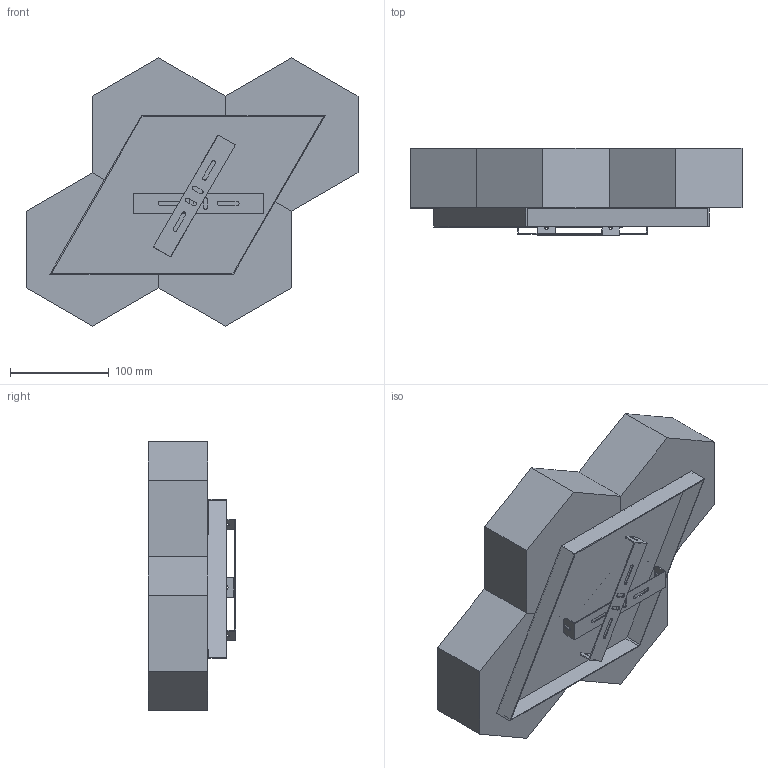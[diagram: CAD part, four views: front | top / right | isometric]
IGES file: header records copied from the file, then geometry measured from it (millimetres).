
Start section: SolidWorks IGES file using analytic representation for surfaces
Global section: file name: F:\燠隴矨\3D\2026-3\Honeycomb Travertine Ceiling Lamp-4Lights A .IGS,15; native system: HSolidWorks 2022; preprocessor: SolidWorks 2022; author: MyPC; date: 260312.102128; units: millimetre
Bounding box: 335.58 x 88.02 x 271.25 mm (x, y, z)
Surface area: 489482.8 mm2 (no closed solid volume)
Topology: 0 solids, 0 shells, 181 faces, 2220 edges, 2220 vertices
Faces by surface type: bspline 133, revolution 48
